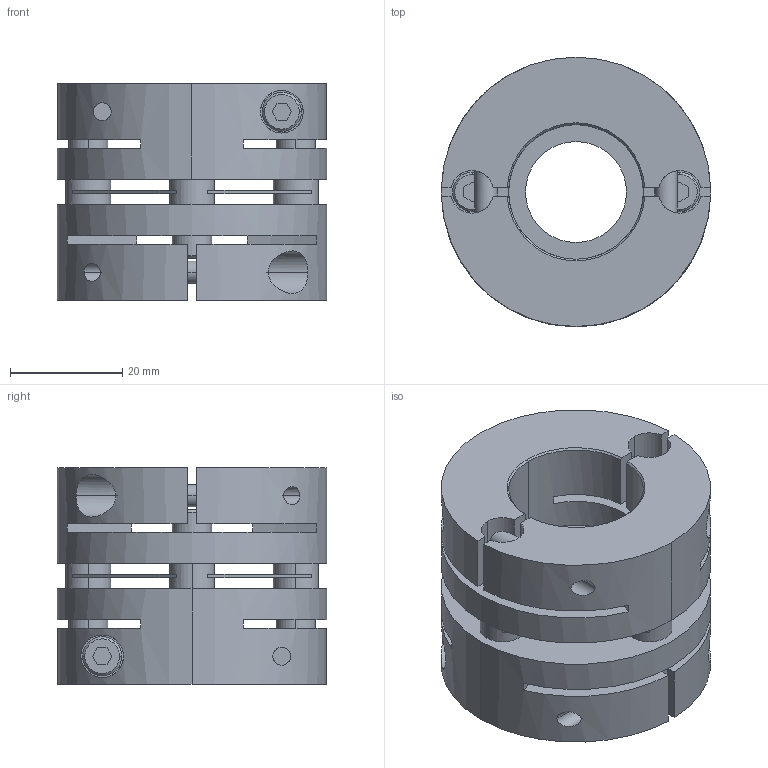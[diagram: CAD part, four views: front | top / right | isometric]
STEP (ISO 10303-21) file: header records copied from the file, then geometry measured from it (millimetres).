
FILE_DESCRIPTION((''),'2;1');
FILE_NAME('LAS-48C-22×24.stp','2015-10-14T15:49:38',(''),(''),'AutoCAD STEP 2000i','AutoCAD 2000i',', , ');
FILE_SCHEMA(('CONFIG_CONTROL_DESIGN'));
Length unit declared in the file: millimetre
Products named in the file (7): LAS-48C-19×19; 忣兜1; LA-4802-D19-1; LA-4802-D19; LA-4802-D12-1; LA-4802-D12; LAS48-ITA
Assembly tree (6 placements, depth 2):
  LAS-48C-19×19
    忣兜1
    LA-4802-D19-1
    LA-4802-D19
    LA-4802-D12-1
    LA-4802-D12
    LAS48-ITA
Bounding box: 48 x 48 x 38.6 mm (x, y, z)
Volume: 42865.2 mm3; surface area: 21128.4 mm2
Topology: 1 solids, 1 shells, 224 faces, 612 edges, 400 vertices
Faces by surface type: plane 112, cylinder 84, cone 28
Entity records: 8075 total; most frequent: CARTESIAN_POINT 2043, DIRECTION 1262, ORIENTED_EDGE 1224, EDGE_CURVE 612, AXIS2_PLACEMENT_3D 459, VERTEX_POINT 400, VECTOR 344, LINE 344
